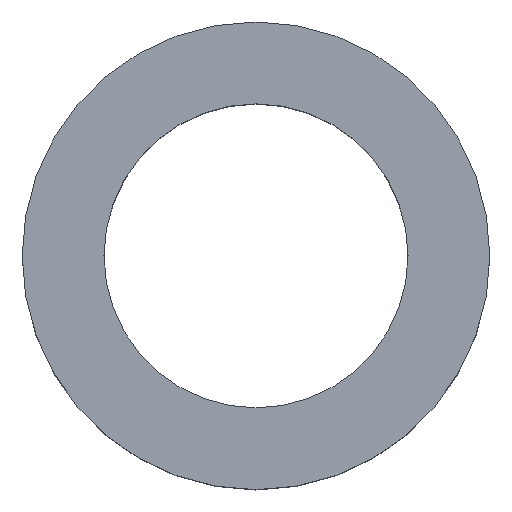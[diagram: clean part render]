
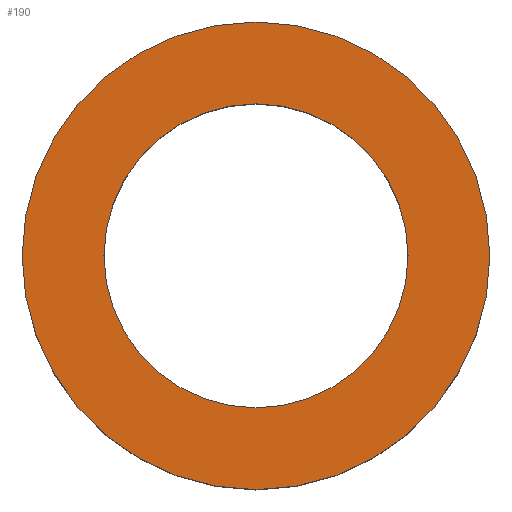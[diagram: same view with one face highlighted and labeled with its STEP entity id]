
A CAD part, top view. The second image highlights one B-rep face of the part: STEP entity #190.
In plain terms, the highlighted planar face has unit normal (0, 0, 1).
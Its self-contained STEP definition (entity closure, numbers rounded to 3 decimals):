
#24 = VERTEX_POINT('',#25);
#25 = CARTESIAN_POINT('',(40.,0.,675.));
#32 = CYLINDRICAL_SURFACE('',#33,40.);
#33 = AXIS2_PLACEMENT_3D('',#34,#35,#36);
#34 = CARTESIAN_POINT('',(0.,0.,645.));
#35 = DIRECTION('',(-0.,-0.,-1.));
#36 = DIRECTION('',(1.,0.,0.));
#51 = EDGE_CURVE('',#24,#24,#52,.T.);
#52 = SURFACE_CURVE('',#53,(#58,#65),.PCURVE_S1.);
#53 = CIRCLE('',#54,40.);
#54 = AXIS2_PLACEMENT_3D('',#55,#56,#57);
#55 = CARTESIAN_POINT('',(0.,0.,675.));
#56 = DIRECTION('',(0.,0.,1.));
#57 = DIRECTION('',(1.,0.,0.));
#58 = PCURVE('',#32,#59);
#59 = DEFINITIONAL_REPRESENTATION('',(#60),#64);
#60 = LINE('',#61,#62);
#61 = CARTESIAN_POINT('',(-0.,-30.));
#62 = VECTOR('',#63,1.);
#63 = DIRECTION('',(-1.,0.));
#64 = ( GEOMETRIC_REPRESENTATION_CONTEXT(2) 
PARAMETRIC_REPRESENTATION_CONTEXT() REPRESENTATION_CONTEXT('2D SPACE',''
  ) );
#65 = PCURVE('',#66,#71);
#66 = PLANE('',#67);
#67 = AXIS2_PLACEMENT_3D('',#68,#69,#70);
#68 = CARTESIAN_POINT('',(0.,0.,675.));
#69 = DIRECTION('',(0.,0.,1.));
#70 = DIRECTION('',(1.,0.,-0.));
#71 = DEFINITIONAL_REPRESENTATION('',(#72),#76);
#72 = CIRCLE('',#73,40.);
#73 = AXIS2_PLACEMENT_2D('',#74,#75);
#74 = CARTESIAN_POINT('',(0.,0.));
#75 = DIRECTION('',(1.,0.));
#76 = ( GEOMETRIC_REPRESENTATION_CONTEXT(2) 
PARAMETRIC_REPRESENTATION_CONTEXT() REPRESENTATION_CONTEXT('2D SPACE',''
  ) );
#112 = VERTEX_POINT('',#113);
#113 = CARTESIAN_POINT('',(26.,0.,675.));
#120 = CYLINDRICAL_SURFACE('',#121,26.);
#121 = AXIS2_PLACEMENT_3D('',#122,#123,#124);
#122 = CARTESIAN_POINT('',(0.,0.,645.));
#123 = DIRECTION('',(-0.,-0.,-1.));
#124 = DIRECTION('',(1.,0.,0.));
#139 = EDGE_CURVE('',#112,#112,#140,.T.);
#140 = SURFACE_CURVE('',#141,(#146,#153),.PCURVE_S1.);
#141 = CIRCLE('',#142,26.);
#142 = AXIS2_PLACEMENT_3D('',#143,#144,#145);
#143 = CARTESIAN_POINT('',(0.,0.,675.));
#144 = DIRECTION('',(0.,0.,1.));
#145 = DIRECTION('',(1.,0.,0.));
#146 = PCURVE('',#120,#147);
#147 = DEFINITIONAL_REPRESENTATION('',(#148),#152);
#148 = LINE('',#149,#150);
#149 = CARTESIAN_POINT('',(-0.,-30.));
#150 = VECTOR('',#151,1.);
#151 = DIRECTION('',(-1.,0.));
#152 = ( GEOMETRIC_REPRESENTATION_CONTEXT(2) 
PARAMETRIC_REPRESENTATION_CONTEXT() REPRESENTATION_CONTEXT('2D SPACE',''
  ) );
#153 = PCURVE('',#66,#154);
#154 = DEFINITIONAL_REPRESENTATION('',(#155),#159);
#155 = CIRCLE('',#156,26.);
#156 = AXIS2_PLACEMENT_2D('',#157,#158);
#157 = CARTESIAN_POINT('',(0.,0.));
#158 = DIRECTION('',(1.,0.));
#159 = ( GEOMETRIC_REPRESENTATION_CONTEXT(2) 
PARAMETRIC_REPRESENTATION_CONTEXT() REPRESENTATION_CONTEXT('2D SPACE',''
  ) );
#190 = ADVANCED_FACE('',(#191,#194),#66,.T.);
#191 = FACE_BOUND('',#192,.T.);
#192 = EDGE_LOOP('',(#193));
#193 = ORIENTED_EDGE('',*,*,#51,.T.);
#194 = FACE_BOUND('',#195,.T.);
#195 = EDGE_LOOP('',(#196));
#196 = ORIENTED_EDGE('',*,*,#139,.F.);
